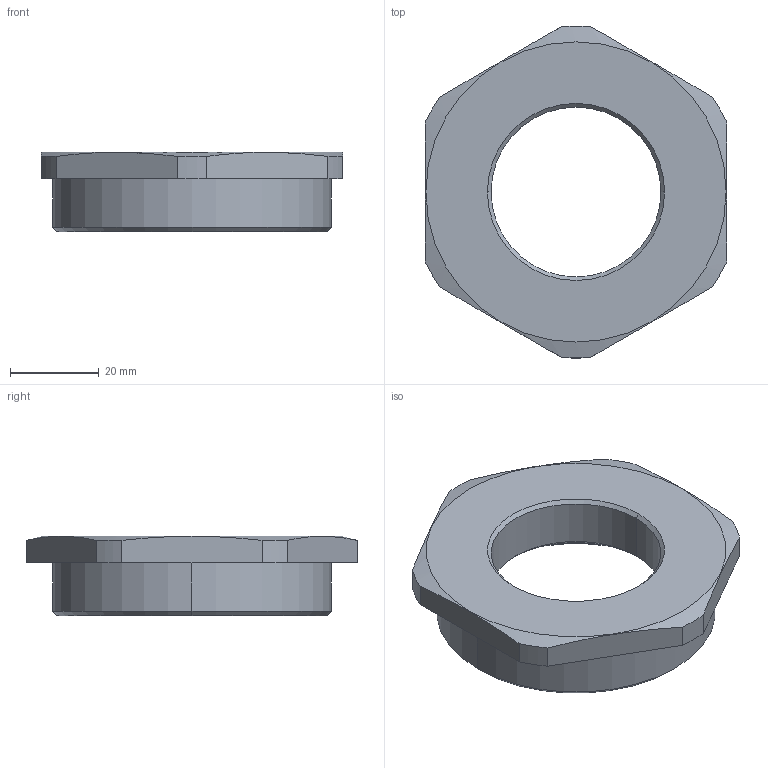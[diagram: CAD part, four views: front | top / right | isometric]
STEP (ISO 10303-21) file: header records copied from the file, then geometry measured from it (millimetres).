
FILE_DESCRIPTION (( 'STEP AP203' ), '1' );
FILE_NAME ('M63M40 PA.STEP', '2005-12-09T08:02:39', ( ' ' ), ( '' ), 'SwSTEP 2.0', 'SolidWorks 2005278', '' );
FILE_SCHEMA (( 'CONFIG_CONTROL_DESIGN' ));
Length unit declared in the file: millimetre
Products named in the file (1): M63M40 PA
Bounding box: 68 x 74.97 x 18 mm (x, y, z)
Volume: 23779.7 mm3; surface area: 14393.5 mm2
Topology: 1 solids, 1 shells, 70 faces, 180 edges, 118 vertices
Faces by surface type: plane 48, cylinder 14, cone 8
Entity records: 2233 total; most frequent: CARTESIAN_POINT 425, ORIENTED_EDGE 360, DIRECTION 350, EDGE_CURVE 180, VECTOR 136, LINE 136, VERTEX_POINT 118, AXIS2_PLACEMENT_3D 107
